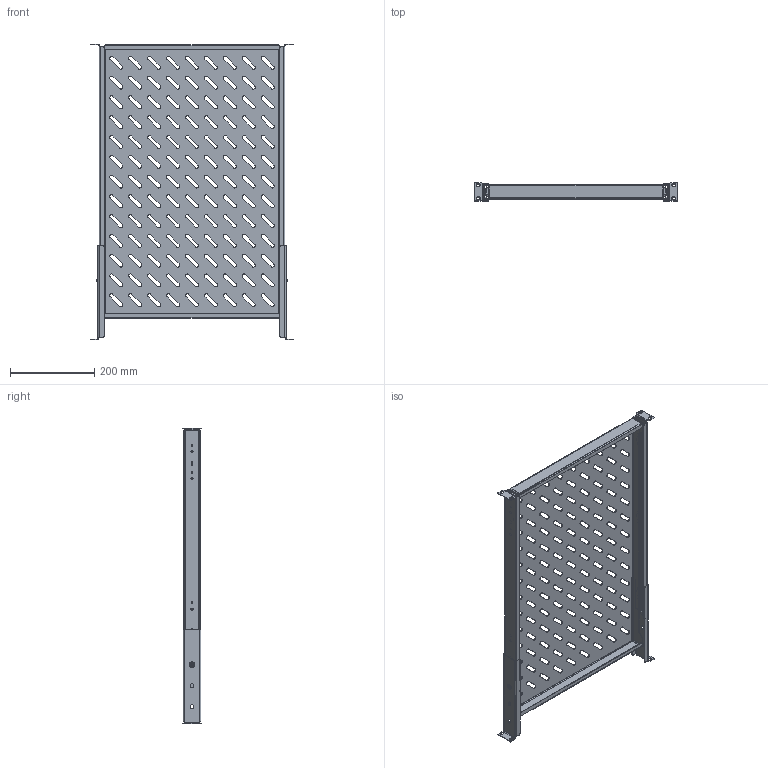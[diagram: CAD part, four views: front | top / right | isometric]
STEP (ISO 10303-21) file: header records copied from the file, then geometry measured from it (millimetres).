
FILE_DESCRIPTION (( 'STEP AP214' ), '1' );
FILE_NAME ('SH 48.65 IÌ Ïîëêà 19'''' âûäâèæíàÿ (700 ìì.).STEP', '2022-08-17T13:24:00', ( '' ), ( '' ), 'SwSTEP 2.0', 'SolidWorks 2018', '' );
FILE_SCHEMA (( 'AUTOMOTIVE_DESIGN' ));
Length unit declared in the file: millimetre
Products named in the file (1): SH 48.65 IÌ Ïîëêà 19'''' âûäâèæíàÿ (700 ìì.)
Bounding box: 482.6 x 43.6 x 702.8 mm (x, y, z)
Volume: 687116.6 mm3; surface area: 1091233.8 mm2
Topology: 15 solids, 15 shells, 1375 faces, 3635 edges, 2276 vertices
Faces by surface type: plane 724, cylinder 627, cone 8, torus 8, sphere 4, bspline 4
Entity records: 58468 total; most frequent: DIRECTION 7657, CARTESIAN_POINT 7511, ORIENTED_EDGE 7262, EDGE_CURVE 3631, AXIS2_PLACEMENT_3D 2662, LINE 2333, VECTOR 2333, VERTEX_POINT 2276
